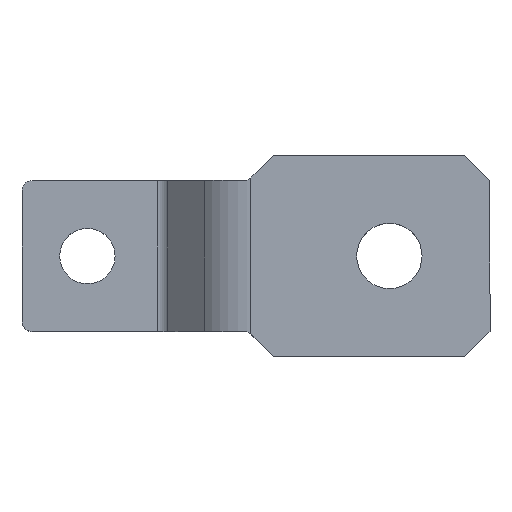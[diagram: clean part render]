
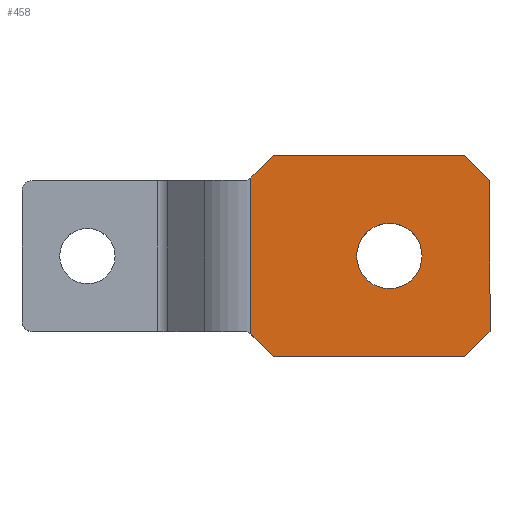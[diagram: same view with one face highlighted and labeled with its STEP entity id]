
A CAD part, top view. The second image highlights one B-rep face of the part: STEP entity #458.
In plain terms, the highlighted planar face has unit normal (0, 0, 1).
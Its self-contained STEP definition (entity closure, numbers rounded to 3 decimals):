
#7 = PLANE ( 'NONE',  #433 ) ;
#9 = FACE_OUTER_BOUND ( 'NONE', #820, .T. ) ;
#22 = CARTESIAN_POINT ( 'NONE',  ( 45.486, -5., 12. ) ) ;
#49 = DIRECTION ( 'NONE',  ( 0., 0., 1. ) ) ;
#51 = CARTESIAN_POINT ( 'NONE',  ( 113., -5., 12. ) ) ;
#58 = VECTOR ( 'NONE', #463, 1000. ) ;
#60 = VERTEX_POINT ( 'NONE', #760 ) ;
#100 = EDGE_CURVE ( 'NONE', #560, #117, #152, .T. ) ;
#101 = CARTESIAN_POINT ( 'NONE',  ( 50., -5., 12. ) ) ;
#117 = VERTEX_POINT ( 'NONE', #516 ) ;
#123 = EDGE_CURVE ( 'NONE', #154, #448, #664, .T. ) ;
#143 = CARTESIAN_POINT ( 'NONE',  ( 88., 35., 12. ) ) ;
#145 = ORIENTED_EDGE ( 'NONE', *, *, #739, .F. ) ;
#151 = CARTESIAN_POINT ( 'NONE',  ( 81.5, -36.5, 12. ) ) ;
#152 = LINE ( 'NONE', #195, #920 ) ;
#154 = VERTEX_POINT ( 'NONE', #613 ) ;
#173 = EDGE_CURVE ( 'NONE', #448, #638, #273, .T. ) ;
#178 = CARTESIAN_POINT ( 'NONE',  ( 45.486, 30.486, 12. ) ) ;
#195 = CARTESIAN_POINT ( 'NONE',  ( 90.5, -2.5, 12. ) ) ;
#198 = CARTESIAN_POINT ( 'NONE',  ( 93., -5., 12. ) ) ;
#227 = VECTOR ( 'NONE', #843, 1000. ) ;
#242 = EDGE_CURVE ( 'NONE', #257, #117, #834, .T. ) ;
#257 = VERTEX_POINT ( 'NONE', #101 ) ;
#259 = VERTEX_POINT ( 'NONE', #354 ) ;
#260 = ORIENTED_EDGE ( 'NONE', *, *, #242, .T. ) ;
#265 = EDGE_CURVE ( 'NONE', #60, #755, #691, .T. ) ;
#273 = LINE ( 'NONE', #781, #540 ) ;
#284 = LINE ( 'NONE', #848, #601 ) ;
#323 = VECTOR ( 'NONE', #851, 1000. ) ;
#342 = VECTOR ( 'NONE', #808, 1000. ) ;
#343 = CARTESIAN_POINT ( 'NONE',  ( 110.5, 12.5, 12. ) ) ;
#354 = CARTESIAN_POINT ( 'NONE',  ( 93., 30., 12. ) ) ;
#376 = DIRECTION ( 'NONE',  ( 0.707, 0.707, 0. ) ) ;
#382 = LINE ( 'NONE', #151, #342 ) ;
#414 = VECTOR ( 'NONE', #1006, 1000. ) ;
#433 = AXIS2_PLACEMENT_3D ( 'NONE', #600, #592, #671 ) ;
#443 = LINE ( 'NONE', #343, #323 ) ;
#445 = DIRECTION ( 'NONE',  ( 1., 0., 0. ) ) ;
#448 = VERTEX_POINT ( 'NONE', #178 ) ;
#458 = ADVANCED_FACE ( 'NONE', ( #9, #797 ), #7, .F. ) ;
#463 = DIRECTION ( 'NONE',  ( 1., 0., 0. ) ) ;
#468 = CARTESIAN_POINT ( 'NONE',  ( 66.5, 15., 12. ) ) ;
#483 = LINE ( 'NONE', #198, #414 ) ;
#484 = AXIS2_PLACEMENT_3D ( 'NONE', #1029, #49, #445 ) ;
#492 = EDGE_CURVE ( 'NONE', #746, #638, #284, .T. ) ;
#496 = EDGE_LOOP ( 'NONE', ( #636, #677 ) ) ;
#500 = CIRCLE ( 'NONE', #484, 6.5 ) ;
#502 = CARTESIAN_POINT ( 'NONE',  ( 73., 15., 12. ) ) ;
#516 = CARTESIAN_POINT ( 'NONE',  ( 88., -5., 12. ) ) ;
#520 = DIRECTION ( 'NONE',  ( -0.707, -0.707, 0. ) ) ;
#540 = VECTOR ( 'NONE', #376, 1000. ) ;
#560 = VERTEX_POINT ( 'NONE', #780 ) ;
#580 = ORIENTED_EDGE ( 'NONE', *, *, #492, .T. ) ;
#581 = ORIENTED_EDGE ( 'NONE', *, *, #658, .F. ) ;
#592 = DIRECTION ( 'NONE',  ( 0., 0., -1. ) ) ;
#600 = CARTESIAN_POINT ( 'NONE',  ( 108.718, -5., 12. ) ) ;
#601 = VECTOR ( 'NONE', #928, 1000. ) ;
#613 = CARTESIAN_POINT ( 'NONE',  ( 45.486, -0.486, 12. ) ) ;
#636 = ORIENTED_EDGE ( 'NONE', *, *, #265, .F. ) ;
#637 = DIRECTION ( 'NONE',  ( 1., 0., 0. ) ) ;
#638 = VERTEX_POINT ( 'NONE', #696 ) ;
#642 = EDGE_CURVE ( 'NONE', #560, #259, #483, .T. ) ;
#650 = ORIENTED_EDGE ( 'NONE', *, *, #123, .F. ) ;
#658 = EDGE_CURVE ( 'NONE', #746, #259, #443, .T. ) ;
#659 = ORIENTED_EDGE ( 'NONE', *, *, #100, .F. ) ;
#664 = LINE ( 'NONE', #22, #227 ) ;
#671 = DIRECTION ( 'NONE',  ( -1., 0., 0. ) ) ;
#677 = ORIENTED_EDGE ( 'NONE', *, *, #973, .F. ) ;
#691 = CIRCLE ( 'NONE', #697, 6.5 ) ;
#696 = CARTESIAN_POINT ( 'NONE',  ( 50., 35., 12. ) ) ;
#697 = AXIS2_PLACEMENT_3D ( 'NONE', #502, #991, #637 ) ;
#739 = EDGE_CURVE ( 'NONE', #257, #154, #382, .T. ) ;
#746 = VERTEX_POINT ( 'NONE', #143 ) ;
#755 = VERTEX_POINT ( 'NONE', #468 ) ;
#760 = CARTESIAN_POINT ( 'NONE',  ( 79.5, 15., 12. ) ) ;
#780 = CARTESIAN_POINT ( 'NONE',  ( 93., 0., 12. ) ) ;
#781 = CARTESIAN_POINT ( 'NONE',  ( 61.5, 46.5, 12. ) ) ;
#788 = ORIENTED_EDGE ( 'NONE', *, *, #173, .F. ) ;
#797 = FACE_BOUND ( 'NONE', #496, .T. ) ;
#808 = DIRECTION ( 'NONE',  ( -0.707, 0.707, 0. ) ) ;
#820 = EDGE_LOOP ( 'NONE', ( #650, #145, #260, #659, #864, #581, #580, #788 ) ) ;
#834 = LINE ( 'NONE', #51, #58 ) ;
#843 = DIRECTION ( 'NONE',  ( 0., 1., 0. ) ) ;
#848 = CARTESIAN_POINT ( 'NONE',  ( 113., 35., 12. ) ) ;
#851 = DIRECTION ( 'NONE',  ( 0.707, -0.707, 0. ) ) ;
#864 = ORIENTED_EDGE ( 'NONE', *, *, #642, .T. ) ;
#920 = VECTOR ( 'NONE', #520, 1000. ) ;
#928 = DIRECTION ( 'NONE',  ( -1., 0., 0. ) ) ;
#973 = EDGE_CURVE ( 'NONE', #755, #60, #500, .T. ) ;
#991 = DIRECTION ( 'NONE',  ( 0., 0., 1. ) ) ;
#1006 = DIRECTION ( 'NONE',  ( 0., 1., 0. ) ) ;
#1029 = CARTESIAN_POINT ( 'NONE',  ( 73., 15., 12. ) ) ;
